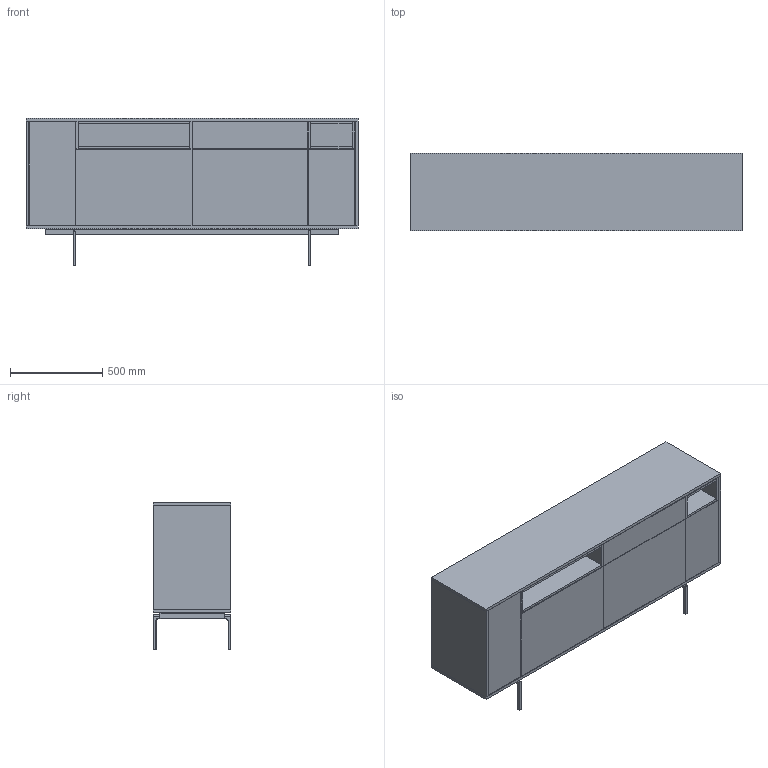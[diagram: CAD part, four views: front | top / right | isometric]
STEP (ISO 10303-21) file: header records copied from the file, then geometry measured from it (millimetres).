
FILE_DESCRIPTION(/* description */ (''),/* implementation_level */ '2;1');
FILE_NAME(/* name */ 'Brunn_Design_KAALM_Sideboard_180',/* time_stamp */ '2023-08-24T13:54:34+02:00',/* author */ (''),/* organization */ (''),/* preprocessor_version */ 'ST-DEVELOPER v16.5',/* originating_system */ 'Rhino 7.32',/* authorisation */ '');
FILE_SCHEMA (('CONFIG_CONTROL_DESIGN'));
Length unit declared in the file: millimetre
Products named in the file (1): Document
Bounding box: 1800 x 421 x 800 mm (x, y, z)
Volume: 126761974 mm3; surface area: 19381930.2 mm2
Topology: 50 solids, 50 shells, 494 faces, 1082 edges, 700 vertices
Faces by surface type: plane 334, cylinder 108, bspline 52
Entity records: 12873 total; most frequent: CARTESIAN_POINT 5197, ORIENTED_EDGE 2138, EDGE_CURVE 1069, B_SPLINE_CURVE_WITH_KNOTS 774, VERTEX_POINT 675, EDGE_LOOP 502, ADVANCED_FACE 494, FACE_OUTER_BOUND 494
